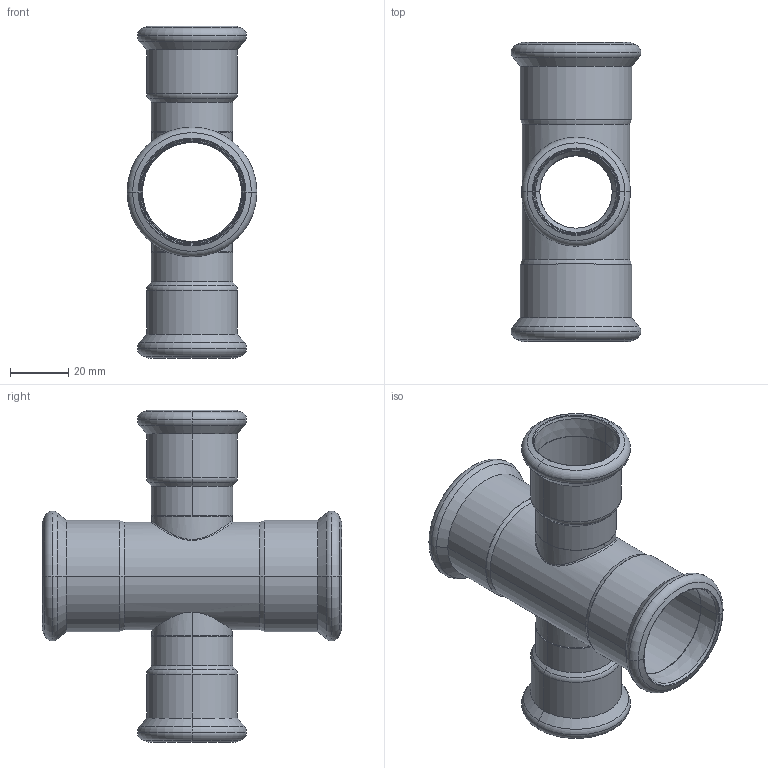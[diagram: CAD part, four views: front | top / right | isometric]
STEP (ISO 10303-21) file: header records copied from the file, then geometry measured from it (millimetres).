
FILE_DESCRIPTION(('CoCreate Modeling STEP Export'),'2;1');
FILE_NAME('C1447 35x28x35x28.stp','2014-11-12T17:05:11',(''),(''),'CoCreate Modeling STEP processor for AP214 (Solid Model)','CoCreate Modeling 17.00A 17-Jun-2010 (C) Parametric Technology GmbH','');
FILE_SCHEMA(('AUTOMOTIVE_DESIGN { 1 0 10303 214 1 1 1 1 }'));
Length unit declared in the file: millimetre
Products named in the file (1): C1447_35x28x35x28
Bounding box: 44.55 x 102.71 x 114 mm (x, y, z)
Volume: 32386.9 mm3; surface area: 38614.6 mm2
Topology: 1 solids, 1 shells, 153 faces, 326 edges, 178 vertices
Faces by surface type: torus 58, cone 46, cylinder 37, bspline 8, plane 4
Entity records: 12444 total; most frequent: CARTESIAN_POINT 9739, ORIENTED_EDGE 652, DIRECTION 474, EDGE_CURVE 326, AXIS2_PLACEMENT_3D 197, VERTEX_POINT 178, EDGE_LOOP 162, FACE_OUTER_BOUND 153
